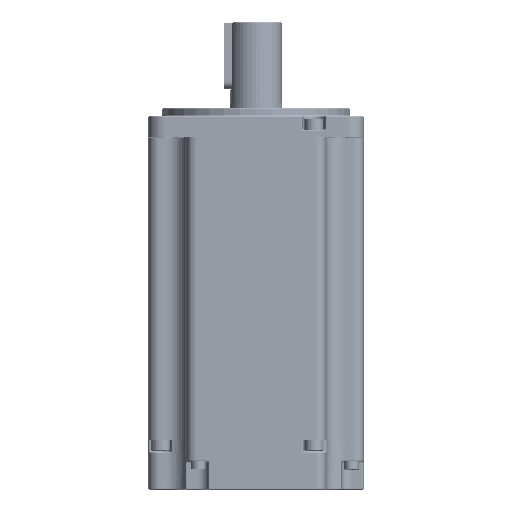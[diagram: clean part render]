
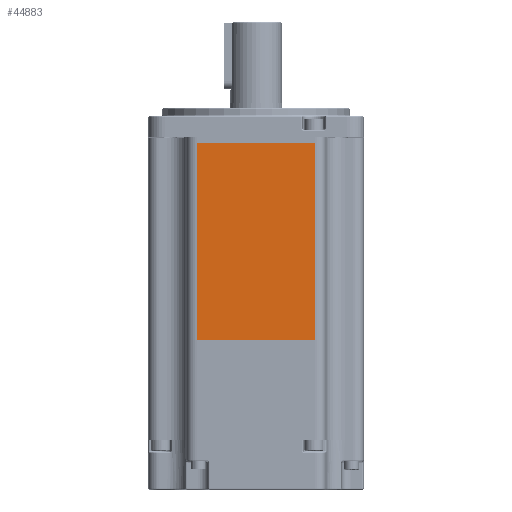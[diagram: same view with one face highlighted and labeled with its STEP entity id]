
A CAD part, top view. The second image highlights one B-rep face of the part: STEP entity #44883.
In plain terms, the highlighted planar face has unit normal (0, 0, 1) as drawn and (-1, 0, 0) by its records, which use the part's own axes.
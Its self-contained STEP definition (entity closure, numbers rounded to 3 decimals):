
#2980 = EDGE_CURVE ( 'NONE', #176428, #178071, #9383, .T. ) ;
#9111 = ORIENTED_EDGE ( 'NONE', *, *, #149903, .T. ) ;
#9383 = LINE ( 'NONE', #115817, #136783 ) ;
#20322 = CARTESIAN_POINT ( 'NONE',  ( -40., -22., 73.5 ) ) ;
#21018 = ORIENTED_EDGE ( 'NONE', *, *, #46837, .F. ) ;
#28484 = PLANE ( 'NONE',  #85813 ) ;
#30719 = DIRECTION ( 'NONE',  ( 0., -1., 0. ) ) ;
#33268 = DIRECTION ( 'NONE',  ( 0., -1., 0. ) ) ;
#44883 = ADVANCED_FACE ( 'NONE', ( #61890 ), #28484, .F. ) ;
#46837 = EDGE_CURVE ( 'NONE', #58041, #146106, #91617, .T. ) ;
#48902 = CARTESIAN_POINT ( 'NONE',  ( -40., 22., 0. ) ) ;
#56211 = CARTESIAN_POINT ( 'NONE',  ( -40., -22., 73.5 ) ) ;
#58041 = VERTEX_POINT ( 'NONE', #102886 ) ;
#61890 = FACE_OUTER_BOUND ( 'NONE', #115151, .T. ) ;
#68463 = ORIENTED_EDGE ( 'NONE', *, *, #90405, .F. ) ;
#69073 = CARTESIAN_POINT ( 'NONE',  ( -40., 22., 73.5 ) ) ;
#80716 = VECTOR ( 'NONE', #30719, 1000. ) ;
#83286 = DIRECTION ( 'NONE',  ( 1., 0., 0. ) ) ;
#85813 = AXIS2_PLACEMENT_3D ( 'NONE', #56211, #83286, #178148 ) ;
#90405 = EDGE_CURVE ( 'NONE', #146106, #178071, #149143, .T. ) ;
#91617 = LINE ( 'NONE', #111510, #80716 ) ;
#99187 = CARTESIAN_POINT ( 'NONE',  ( -40., -22., 0. ) ) ;
#102886 = CARTESIAN_POINT ( 'NONE',  ( -40., 22., 73.5 ) ) ;
#111510 = CARTESIAN_POINT ( 'NONE',  ( -40., -22., 73.5 ) ) ;
#115151 = EDGE_LOOP ( 'NONE', ( #171273, #68463, #21018, #9111 ) ) ;
#115817 = CARTESIAN_POINT ( 'NONE',  ( -40., -22., 0. ) ) ;
#125717 = DIRECTION ( 'NONE',  ( 0., 0., -1. ) ) ;
#129741 = VECTOR ( 'NONE', #175677, 1000. ) ;
#136365 = VECTOR ( 'NONE', #125717, 1000. ) ;
#136783 = VECTOR ( 'NONE', #33268, 1000. ) ;
#146106 = VERTEX_POINT ( 'NONE', #20322 ) ;
#149143 = LINE ( 'NONE', #163546, #129741 ) ;
#149903 = EDGE_CURVE ( 'NONE', #58041, #176428, #173195, .T. ) ;
#163546 = CARTESIAN_POINT ( 'NONE',  ( -40., -22., 73.5 ) ) ;
#171273 = ORIENTED_EDGE ( 'NONE', *, *, #2980, .T. ) ;
#173195 = LINE ( 'NONE', #69073, #136365 ) ;
#175677 = DIRECTION ( 'NONE',  ( 0., 0., -1. ) ) ;
#176428 = VERTEX_POINT ( 'NONE', #48902 ) ;
#178071 = VERTEX_POINT ( 'NONE', #99187 ) ;
#178148 = DIRECTION ( 'NONE',  ( 0., 0., -1. ) ) ;
